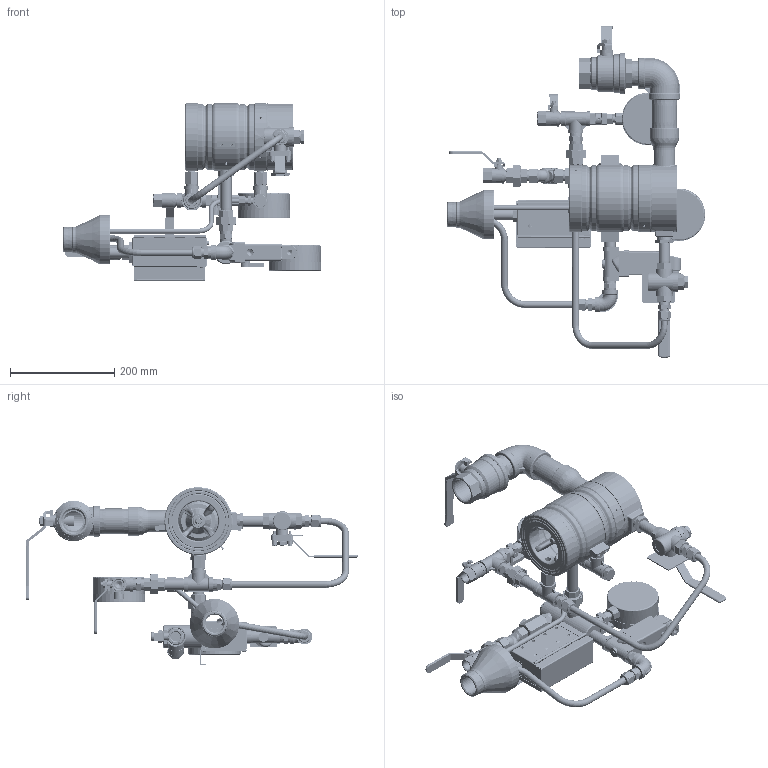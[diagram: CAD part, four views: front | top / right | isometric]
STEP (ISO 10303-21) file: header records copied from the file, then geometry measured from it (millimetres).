
FILE_DESCRIPTION(/* description */ (''),/* implementation_level */ '2;1');
FILE_NAME(/* name */ 'Z:\STANDARD SYSTEM\700DX-03C06\Step\799DX-03C06 FM UL Trim 3in.stp',/* time_stamp */ '2022-03-07T15:07:20+02:00',/* author */ ('alex'),/* organization */ (''),/* preprocessor_version */ 'ST-DEVELOPER v16.13',/* originating_system */ 'Autodesk Inventor 2018',/* authorisation */ '');
FILE_SCHEMA (('AUTOMOTIVE_DESIGN { 1 0 10303 214 3 1 1 }'));
Products named in the file (129): 799DX-03C06 FM UL Trim 3in; Plug 34 SS; 5840; 799DX_3in; 3378-1; Nipple 112x80 SS; Elbow 112FxF SS; 351-24-02 close position; BODY_351-24-02; ANSI B18.2.2 - 7/16 - 14; HANDLE-351-24-02; HANDLE_COVER-351-24-02; 799D-3_; 3141 with 5559; 4138; 4430; PIN; 5559; 5559_MIR5; 4141; 3039; 4140; 4101; 4512; 4513; GASKET3; Solenoid-157 Assy; 157-61X; 157-61X Body; 151-7X; BODY BURKERT; BURKERT 330 COIL; BURKERT BUSH BUTTON; BURKERT CONDUIT; ISO 1207 - M 3 x 30; ISO 1207 - M 4 x 40; O'RING INCH; Q2611 - 1; Nipple 12x3,5 SS; 5375T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
Assembly tree (167 placements, depth 5):
  799DX-03C06 FM UL Trim 3in
    Plug 34 SS
    Plug 12 SS  x3
    5840
    799DX_3in
      3378-1
      Nipple 112x80 SS
      Elbow 112FxF SS
      351-24-02 close position
        BODY_351-24-02
        ANSI B18.2.2 - 7/16 - 14
        HANDLE-351-24-02
        HANDLE_COVER-351-24-02
      799D-3_
        3141 with 5559
          4138
          4430
          PIN
          5559
          5559_MIR5
        4141
        3039  x2
        4140  x2
        4101
        4512  x2
        4513  x2
      GASKET3
    Solenoid-157 Assy
      Nipple 12x2.5 SS
      157-61X
        157-61X Body
        151-7X
          BODY BURKERT
          BURKERT 330 COIL
          BURKERT BUSH BUTTON
          BURKERT CONDUIT
          ISO 1207 - M 3 x 30
          ISO 1207 - M 4 x 40  x4
    Q2611 - 1
    Nipple 12x3,5 SS
    5375T
    31-08-01
      BODY
      COVER_31-08-01
    6244-1
      6245-1
      0-RING Ø12xØ3
      DIN 472 - 18 x 1
      BALL OD14mm
      5214_
      6246
      6318
      0-RING2112
    Nipple 12 hex SS  x4
    Union 12 SS  x2
      Half Union 12M SS
      Half Union 12F SS
      Half Union F
    2072
      2073 rev01
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Bounding box: 496.15 x 637.31 x 340.82 mm (x, y, z)
Volume: 3612202.2 mm3; surface area: 1255277.9 mm2
Topology: 152 solids, 154 shells, 4857 faces, 11544 edges, 7225 vertices
Faces by surface type: plane 2298, cone 979, cylinder 974, bspline 453, torus 142, sphere 11
Full cylindrical faces by diameter (mm): 0.438 x1, 1 x2, 2 x2, 2.693 x1, 3 x7, 3.242 x14, 3.571 x4, 4 x16, 4.1 x2, 4.134 x8, 4.5 x2, 5 x16, 5.08 x4, 5.25 x2, 5.5 x5, 5.8 x4, 6 x2, 6.33 x4, 6.35 x2, 6.4 x4, 6.5 x2, 6.647 x1, 6.88 x2, 7 x9, 7.036 x3, 7.3 x1, 7.5 x2, 7.515 x4, 7.6 x2, 7.715 x4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
Entity records: 117957 total; most frequent: CARTESIAN_POINT 33689, ORIENTED_EDGE 16050, DIRECTION 15975, EDGE_CURVE 8007, AXIS2_PLACEMENT_3D 5936, VERTEX_POINT 5391, EDGE_LOOP 4790, LINE 4103
